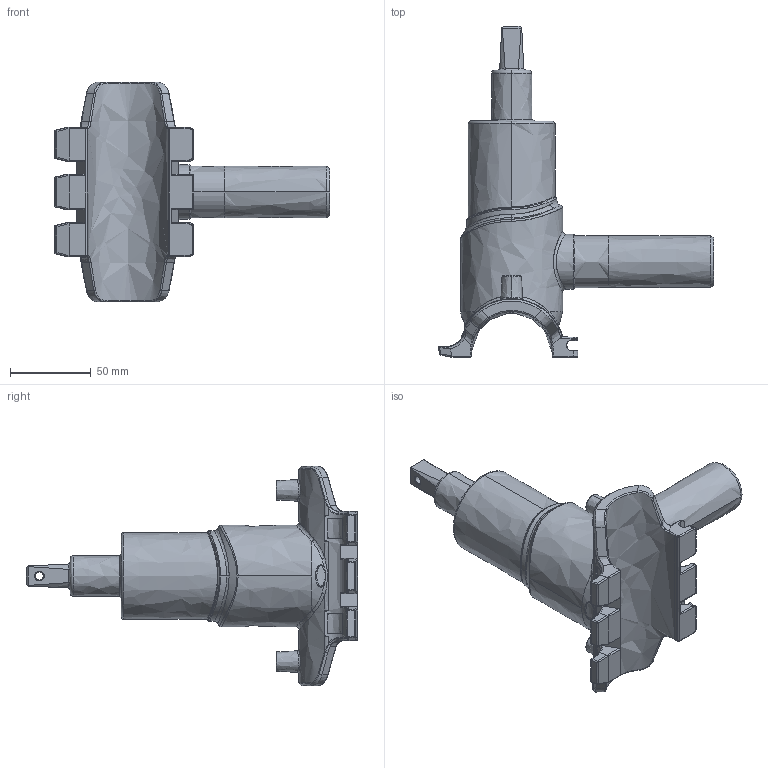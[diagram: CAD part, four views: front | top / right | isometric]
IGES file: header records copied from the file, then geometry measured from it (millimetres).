
Start section:  PTC IGES file: dav2_d050_32_01.igs
Global section: file name: dav2_d050_32_01.igs; native system: Creo Parametric by PTC Inc.; preprocessor: 2022124; author: mikulicp; organization: Unknown; date: 20240502.100910; units: millimetre
Bounding box: 170.41 x 204.99 x 136 mm (x, y, z)
Surface area: 70780.6 mm2 (no closed solid volume)
Topology: 0 solids, 0 shells, 575 faces, 2804 edges, 2798 vertices
Faces by surface type: bspline 575
